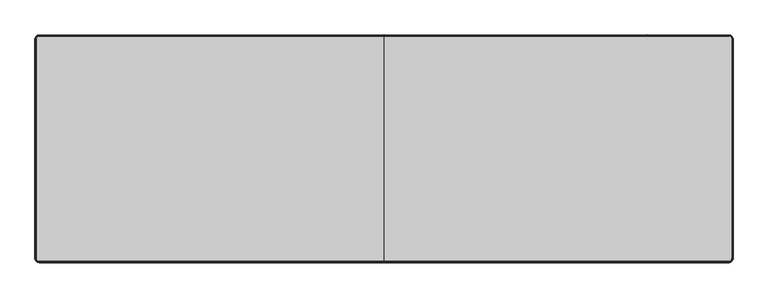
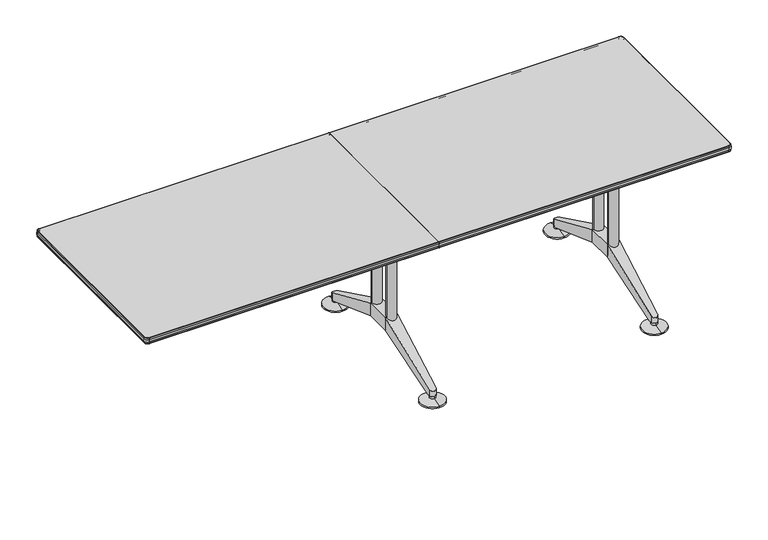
"""IFC4 building model written with IfcOpenShell, lengths in millimetres: furniture geometry, Furniture_Wilkhahn_620-23_Logon Table-Rectangle : Logon 620/23_2450L x 800W x 730H."""

from ifc_helpers import new_model, si_unit, point, frame, frame_2d, origin, place, context, project, spatial, polyline, circle_curve, ellipse_curve, trimmed, segment, composite_curve, outline, extrude, source, transform, mapped, element, save
from ifc_brep_helpers import plane_surface, cylinder_surface, revolved_surface, advanced_brep


def furniture_a2308944(model_context):
    return source(origin(), model_context, "Body", "SolidModel", [
        advanced_brep(
        [(0.0, 376.4755164, 0.0), (0.0, 326.4755164, 0.0), (0.0, 426.4755164, 0.0), (0.0, 326.4755164, 6.0), (0.0, 426.4755164, 6.0), (0.0, 363.9998784, 17.0), (0.0, 388.9511544, 17.0), (0.0, 363.9998784, 27.0), (0.0, 388.9511544, 27.0), (0.0, 376.4755164, 27.0)],
        [
            (0, 1),
            (1, 2, circle_curve(frame((0.0, 376.4755164, 0.0), z_axis=(0.0, 0.0, -1.0), x_axis=(0.0, 1.0000000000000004, 0.0)), 50.0)),
            (2, 0),
            (2, 1, circle_curve(frame((0.0, 376.4755164, 0.0), z_axis=(0.0, 0.0, -1.0), x_axis=(0.0, 1.0000000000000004, 0.0)), 50.0)),
            (1, 3),
            (3, 4, circle_curve(frame((0.0, 376.4755164, 6.0), z_axis=(0.0, 0.0, -1.0), x_axis=(0.0, 1.0000000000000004, 0.0)), 50.0)),
            (4, 2),
            (4, 3, circle_curve(frame((0.0, 376.4755164, 6.0), z_axis=(0.0, 0.0, -1.0), x_axis=(0.0, 1.0000000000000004, 0.0)), 50.0)),
            (3, 5),
            (5, 6, circle_curve(frame((0.0, 376.4755164, 17.0), z_axis=(0.0, 0.0, -1.0), x_axis=(0.0, 1.0000000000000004, 0.0)), 12.475638)),
            (6, 4),
            (6, 5, circle_curve(frame((0.0, 376.4755164, 17.0), z_axis=(0.0, 0.0, -1.0), x_axis=(0.0, 1.0000000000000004, 0.0)), 12.475638)),
            (5, 7),
            (7, 8, circle_curve(frame((0.0, 376.4755164, 27.0), z_axis=(0.0, 0.0, -1.0), x_axis=(0.0, 1.0000000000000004, 0.0)), 12.475638)),
            (8, 6),
            (8, 7, circle_curve(frame((0.0, 376.4755164, 27.0), z_axis=(0.0, 0.0, -1.0), x_axis=(0.0, 1.0000000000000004, 0.0)), 12.475638)),
            (7, 9),
            (9, 8),
        ],
        [
            plane_surface(frame((0.0, 376.4755164, 0.0), z_axis=(0.0, 0.0, -1.0), x_axis=(0.0, 1.0, 0.0))),
            cylinder_surface(frame((0.0, 376.4755164, 27.0), z_axis=(0.0, 0.0, -1.0), x_axis=(0.0, 1.0000000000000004, 0.0)), 50.0),
            revolved_surface(polyline([(0.0, 388.9511544, 17.0), (0.0, 426.4755164, 6.0)]), (0.0, 376.4755164, 27.0), (0.0, 0.0, -1.0)),
            cylinder_surface(frame((0.0, 376.4755164, 27.0), z_axis=(0.0, 0.0, -1.0), x_axis=(0.0, 1.0000000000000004, 0.0)), 12.475638),
            plane_surface(frame((0.0, 376.4755164, 27.0), z_axis=(0.0, 0.0, 1.0), x_axis=(0.0, 1.0, 0.0))),
        ],
        [
            (0, [[1, 2, 3]]),
            (0, [[-3, 4, -1]]),
            (1, [[5, 6, 7, -2]]),
            (1, [[-7, 8, -5, -4]]),
            (2, [[9, 10, 11, -6]]),
            (2, [[-11, 12, -9, -8]]),
            (3, [[13, 14, 15, -10]]),
            (3, [[-15, 16, -13, -12]]),
            (4, [[17, 18, -14]]),
            (4, [[-18, -17, -16]]),
        ],
    ),
        advanced_brep(
        [(0.0, -274.5732076, 0.0), (0.0, -324.5732076, 0.0), (0.0, -374.5732076, 0.0), (0.0, -274.5732076, 6.0), (0.0, -374.5732076, 6.0), (0.0, -312.0975696, 17.0), (0.0, -337.0488456, 17.0), (0.0, -312.0975696, 27.0), (0.0, -337.0488456, 27.0), (0.0, -324.5732076, 27.0)],
        [
            (0, 1),
            (1, 2),
            (2, 0, circle_curve(frame((0.0, -324.5732076, 0.0), z_axis=(0.0, 0.0, -1.0), x_axis=(0.0, -1.0000000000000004, 0.0)), 50.0)),
            (0, 2, circle_curve(frame((0.0, -324.5732076, 0.0), z_axis=(0.0, 0.0, -1.0), x_axis=(0.0, -1.0000000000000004, 0.0)), 50.0)),
            (3, 0),
            (2, 4),
            (4, 3, circle_curve(frame((0.0, -324.5732076, 6.0), z_axis=(0.0, 0.0, -1.0), x_axis=(0.0, -1.0000000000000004, 0.0)), 50.0)),
            (3, 4, circle_curve(frame((0.0, -324.5732076, 6.0), z_axis=(0.0, 0.0, -1.0), x_axis=(0.0, -1.0000000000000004, 0.0)), 50.0)),
            (5, 3),
            (4, 6),
            (6, 5, circle_curve(frame((0.0, -324.5732076, 17.0), z_axis=(0.0, 0.0, -1.0), x_axis=(0.0, -1.0000000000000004, 0.0)), 12.475638)),
            (5, 6, circle_curve(frame((0.0, -324.5732076, 17.0), z_axis=(0.0, 0.0, -1.0), x_axis=(0.0, -1.0000000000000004, 0.0)), 12.475638)),
            (7, 5),
            (6, 8),
            (8, 7, circle_curve(frame((0.0, -324.5732076, 27.0), z_axis=(0.0, 0.0, -1.0), x_axis=(0.0, -1.0000000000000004, 0.0)), 12.475638)),
            (7, 8, circle_curve(frame((0.0, -324.5732076, 27.0), z_axis=(0.0, 0.0, -1.0), x_axis=(0.0, -1.0000000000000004, 0.0)), 12.475638)),
            (9, 7),
            (8, 9),
        ],
        [
            plane_surface(frame((0.0, -324.5732076, 0.0), z_axis=(0.0, 0.0, -1.0), x_axis=(0.0, -1.0, 0.0))),
            cylinder_surface(frame((0.0, -324.5732076, 27.0), z_axis=(0.0, 0.0, 1.0), x_axis=(0.0, -1.0000000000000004, 0.0)), 50.0),
            revolved_surface(polyline([(0.0, -374.5732076, 6.0), (0.0, -337.0488456, 17.0)]), (0.0, -324.5732076, 27.0), (0.0, 0.0, 1.0)),
            cylinder_surface(frame((0.0, -324.5732076, 27.0), z_axis=(0.0, 0.0, 1.0), x_axis=(0.0, -1.0000000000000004, 0.0)), 12.475638),
            plane_surface(frame((0.0, -324.5732076, 27.0), z_axis=(0.0, 0.0, 1.0), x_axis=(0.0, -1.0, 0.0))),
        ],
        [
            (0, [[1, 2, 3]]),
            (0, [[-2, -1, 4]]),
            (1, [[5, -3, 6, 7]]),
            (1, [[-6, -4, -5, 8]]),
            (2, [[9, -7, 10, 11]]),
            (2, [[-10, -8, -9, 12]]),
            (3, [[13, -11, 14, 15]]),
            (3, [[-14, -12, -13, 16]]),
            (4, [[17, -15, 18]]),
            (4, [[-18, -16, -17]]),
        ],
    ),
        extrude(outline(composite_curve([segment(polyline([(25.0, 78.9511544), (25.0, -27.0488456), (51.7160071, -190.1086133)]), True, "CONTINUOUS"), segment(trimmed(circle_curve(frame_2d((39.8739001, -192.0488456)), 12.0), [point((51.7160071, -190.1086133))], [point((39.8739001, -204.0488456))], False, "CARTESIAN"), True, "CONTINUOUS"), segment(polyline([(39.8739001, -204.0488456), (-39.8739001, -204.0488456)]), True, "CONTINUOUS"), segment(trimmed(circle_curve(frame_2d((-39.8739001, -192.0488456)), 12.0), [point((-39.8739001, -204.0488456))], [point((-51.7160071, -190.1086133))], False, "CARTESIAN"), True, "CONTINUOUS"), segment(polyline([(-51.7160071, -190.1086133), (-25.0, -27.0488456), (-25.0, 78.9511544), (-51.7160071, 242.0109222)]), True, "CONTINUOUS"), segment(trimmed(circle_curve(frame_2d((-39.8739001, 243.9511544)), 12.0), [point((-51.7160071, 242.0109222))], [point((-39.8739001, 255.9511544))], False, "CARTESIAN"), True, "CONTINUOUS"), segment(polyline([(-39.8739001, 255.9511544), (39.8739001, 255.9511544)]), True, "CONTINUOUS"), segment(trimmed(circle_curve(frame_2d((39.8739001, 243.9511544)), 12.0), [point((39.8739001, 255.9511544))], [point((51.7160071, 242.0109222))], False, "CARTESIAN"), True, "CONTINUOUS"), segment(polyline([(51.7160071, 242.0109222), (25.0, 78.9511544)]), True, "CONTINUOUS")], self_intersect=False)), frame((0.0, 0.0, 675.0), z_axis=(0.0, 0.0, 1.0), x_axis=(1.0, 0.0, 0.0)), (0.0, 0.0, 1.0), 29.0),
        advanced_brep(
        [(-25.0, -27.0488456, 140.0), (-25.0, -27.0488456, 195.0), (-25.0, 78.9511544, 195.0), (-25.0, 78.9511544, 140.0), (25.0, -27.0488456, 195.0), (25.0, -27.0488456, 140.0), (25.0, 78.9511544, 140.0), (25.0, 78.9511544, 195.0), (13.4930419, -312.0975696, 27.0), (12.9894205, -324.5732076, 27.0), (0.0, -337.0488456, 27.0), (-12.9894205, -324.5732076, 27.0), (-13.4930419, -312.0975696, 27.0), (-12.9894205, -324.5732076, 56.4159205), (0.0, -337.0488456, 50.6048844), (12.9894205, -324.5732076, 56.4159205), (12.9894205, 376.4755164, 56.4159205), (13.4930419, 363.9998784, 27.0), (12.9894205, 376.4755164, 27.0), (-12.9894205, 376.4755164, 27.0), (-13.4930419, 363.9998784, 27.0), (-12.9894205, 376.4755164, 56.4159205), (0.0, 388.9511544, 50.6048844), (0.0, 388.9511544, 27.0)],
        [
            (0, 1),
            (1, 2),
            (2, 3),
            (3, 0),
            (4, 5),
            (5, 6),
            (6, 7),
            (7, 4),
            (8, 9),
            (9, 10, circle_curve(frame((0.0, -324.0488456, 27.0), z_axis=(0.0, 0.0, -1.0), x_axis=(1.0000000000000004, 0.0, 0.0)), 13.0)),
            (10, 11, circle_curve(frame((0.0, -324.0488456, 27.0), z_axis=(0.0, 0.0, -1.0), x_axis=(1.0000000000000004, 0.0, 0.0)), 13.0)),
            (11, 12),
            (12, 8),
            (1, 13),
            (13, 14, ellipse_curve(frame((0.0, -324.0488456, 56.6601634), z_axis=(0.0, -0.42223330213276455, 0.9064871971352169), x_axis=(0.0, -0.9064871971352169, -0.42223330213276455)), 14.341074, 13.0)),
            (14, 15, ellipse_curve(frame((0.0, -324.0488456, 56.6601634), z_axis=(0.0, -0.42223330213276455, 0.9064871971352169), x_axis=(0.0, -0.9064871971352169, -0.42223330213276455)), 14.341074, 13.0)),
            (15, 4),
            (4, 1),
            (5, 8),
            (12, 0),
            (0, 5),
            (16, 7),
            (6, 17),
            (17, 18),
            (18, 16),
            (19, 20),
            (20, 3),
            (2, 21),
            (21, 19),
            (7, 2),
            (3, 6),
            (21, 22, ellipse_curve(frame((0.0, 375.9511544, 56.6601634), z_axis=(0.0, -0.42223330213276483, -0.906487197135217), x_axis=(0.0, 0.906487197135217, -0.42223330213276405)), 14.341074, 13.0)),
            (22, 16, ellipse_curve(frame((0.0, 375.9511544, 56.6601634), z_axis=(0.0, -0.42223330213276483, -0.906487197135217), x_axis=(0.0, 0.906487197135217, -0.42223330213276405)), 14.341074, 13.0)),
            (18, 23, circle_curve(frame((0.0, 375.9511544, 27.0), z_axis=(0.0, 0.0, 1.0), x_axis=(1.0000000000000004, 0.0, 0.0)), 13.0)),
            (23, 19, circle_curve(frame((0.0, 375.9511544, 27.0), z_axis=(0.0, 0.0, 1.0), x_axis=(1.0000000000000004, 0.0, 0.0)), 13.0)),
            (11, 13),
            (9, 15),
            (17, 20),
        ],
        [
            plane_surface(frame((-25.0, -320.3023057, 27.0), z_axis=(-1.0, 0.0, 0.0), x_axis=(0.0, 1.0, 0.0))),
            plane_surface(frame((25.0, -320.3023057, 27.0), z_axis=(1.0, 0.0, 0.0), x_axis=(0.0, -1.0, 0.0))),
            plane_surface(frame((25.0, -312.0975696, 27.0), z_axis=(0.0, 0.0, -1.0), x_axis=(-1.0, 0.0, 0.0))),
            plane_surface(frame((25.0, -337.0488456, 50.6048844), z_axis=(0.0, -0.42223330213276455, 0.9064871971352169), x_axis=(-1.0, 0.0, 0.0))),
            plane_surface(frame((25.0, -27.0488456, 140.0), z_axis=(0.0, 0.36852267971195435, -0.9296187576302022), x_axis=(-1.0, 0.0, 0.0))),
            plane_surface(frame((25.0, 78.9511544, 195.0), z_axis=(0.9991861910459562, 0.04033553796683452, 0.0), x_axis=(0.0, 0.0, -1.0))),
            plane_surface(frame((-12.9894205, 376.4755164, 195.0), z_axis=(-0.9991861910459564, 0.0403355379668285, 0.0), x_axis=(0.0, 0.0, -1.0))),
            plane_surface(frame((25.0, -27.0488456, 195.0), z_axis=(0.0, 0.0, 1.0), x_axis=(-1.0, 0.0, 0.0))),
            plane_surface(frame((25.0, 78.9511544, 140.0), z_axis=(0.0, 0.0, -1.0), x_axis=(-1.0, 0.0, 0.0))),
            cylinder_surface(frame((0.0, 375.9511544, 0.0), z_axis=(0.0, 0.0, -1.0), x_axis=(1.0000000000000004, 0.0, 0.0)), 13.0),
            plane_surface(frame((-25.0, -27.0488456, 195.0), z_axis=(-0.9991861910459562, -0.040335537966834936, 0.0), x_axis=(0.0, 0.0, -1.0))),
            cylinder_surface(frame((0.0, -324.0488456, -14.190167), z_axis=(0.0, 0.0, -1.0), x_axis=(1.0000000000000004, 0.0, 0.0)), 13.0),
            plane_surface(frame((12.9894205, -324.5732076, 195.0), z_axis=(0.9991861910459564, -0.04033553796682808, 0.0), x_axis=(0.0, 0.0, -1.0))),
            plane_surface(frame((25.0, 78.9511544, 195.0), z_axis=(0.0, 0.4222333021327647, 0.9064871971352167), x_axis=(-1.0, 0.0, 0.0))),
            plane_surface(frame((25.0, 388.9511544, 27.0), z_axis=(0.0, 0.0, -1.0), x_axis=(-1.0, 0.0, 0.0))),
            plane_surface(frame((25.0, 363.9998784, 27.0), z_axis=(0.0, -0.36852267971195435, -0.929618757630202), x_axis=(-1.0, 0.0, 0.0))),
        ],
        [
            (0, [[1, 2, 3, 4]]),
            (1, [[5, 6, 7, 8]]),
            (2, [[9, 10, 11, 12, 13]]),
            (3, [[14, 15, 16, 17, 18]]),
            (4, [[19, -13, 20, 21]]),
            (5, [[22, -7, 23, 24, 25]]),
            (6, [[26, 27, -3, 28, 29]]),
            (7, [[-18, -8, 30, -2]]),
            (8, [[31, -6, -21, -4]]),
            (9, [[32, 33, -25, 34, 35, -29]]),
            (10, [[-14, -1, -20, -12, 36]]),
            (11, [[-11, -10, 37, -16, -15, -36]]),
            (12, [[-9, -19, -5, -17, -37]]),
            (13, [[-22, -33, -32, -28, -30]]),
            (14, [[-26, -35, -34, -24, 38]]),
            (15, [[-27, -38, -23, -31]]),
        ],
    ),
        extrude(outline(composite_curve([segment(trimmed(circle_curve(frame_2d((0.0, 78.9511544)), 20.0), [point((-20.0, 78.9511544))], [point((20.0, 78.9511544))], False, "CARTESIAN"), True, "CONTINUOUS"), segment(trimmed(circle_curve(frame_2d((0.0, 78.9511544)), 20.0), [point((20.0, 78.9511544))], [point((-20.0, 78.9511544))], False, "CARTESIAN"), True, "CONTINUOUS")], self_intersect=False)), frame((0.0, 0.0, 140.0), z_axis=(0.0, 0.0, 1.0), x_axis=(1.0, 0.0, 0.0)), (0.0, 0.0, 1.0), 535.0),
        extrude(outline(composite_curve([segment(trimmed(circle_curve(frame_2d((0.0, -27.0488456)), 20.0), [point((-20.0, -27.0488456))], [point((20.0, -27.0488456))], False, "CARTESIAN"), True, "CONTINUOUS"), segment(trimmed(circle_curve(frame_2d((0.0, -27.0488456)), 20.0), [point((20.0, -27.0488456))], [point((-20.0, -27.0488456))], False, "CARTESIAN"), True, "CONTINUOUS")], self_intersect=False)), frame((0.0, 0.0, 140.0), z_axis=(0.0, 0.0, 1.0), x_axis=(1.0, 0.0, 0.0)), (0.0, 0.0, 1.0), 535.0),
        advanced_brep(
        [(0.0, 421.9511544, 730.0), (0.0, 423.4511544, 728.5), (0.0, 423.4511544, 721.3301166), (0.0, 423.4511544, 712.6698626), (0.0, 423.4511544, 705.4999792), (0.0, 421.9511544, 703.9999792), (0.0, -370.0488456, 703.9999792), (0.0, -371.5488456, 705.4999792), (0.0, -371.5488456, 712.6698626), (0.0, -371.5488456, 721.3301166), (0.0, -371.5488456, 728.5), (0.0, -370.0488456, 730.0), (1210.0, -370.0488456, 703.9999792), (1221.0, -359.0488456, 703.9999792), (1222.5, -359.0488456, 705.4999792), (1210.0, -371.5488456, 705.4999792), (1222.5, -359.0488456, 712.6698626), (1210.0, -371.5488456, 712.6698626), (1222.5, -359.0488456, 721.3301166), (1210.0, -371.5488456, 721.3301166), (1222.5, -359.0488456, 728.5), (1210.0, -371.5488456, 728.5), (1221.0, -359.0488456, 730.0), (1210.0, -370.0488456, 730.0), (1210.0, 421.9511544, 703.9999792), (1221.0, 410.9511544, 703.9999792), (1210.0, 423.4511544, 705.4999792), (1210.0, 423.4511544, 712.6698626), (1210.0, 423.4511544, 721.3301166), (1210.0, 423.4511544, 728.5), (1210.0, 421.9511544, 730.0), (1221.0, 410.9511544, 730.0), (1222.5, 410.9511544, 705.4999792), (1222.5, 410.9511544, 712.6698626), (1222.5, 410.9511544, 721.3301166), (1222.5, 410.9511544, 728.5)],
        [
            (0, 1, circle_curve(frame((0.0, 421.9511544, 728.5), z_axis=(-1.0, 0.0, 0.0), x_axis=(0.0, 1.0, 0.0)), 1.5)),
            (1, 2),
            (2, 3, circle_curve(frame((0.0, 420.9511544, 716.9999896), z_axis=(-1.0, 0.0, 0.0), x_axis=(0.0, 1.0, 0.0)), 5.0)),
            (3, 4),
            (4, 5, circle_curve(frame((0.0, 421.9511544, 705.4999792), z_axis=(-1.0, 0.0, 0.0), x_axis=(0.0, 1.0, 0.0)), 1.5)),
            (5, 6),
            (6, 7, circle_curve(frame((0.0, -370.0488456, 705.4999792), z_axis=(-1.0, 0.0, 0.0), x_axis=(0.0, -1.0, 0.0)), 1.5)),
            (7, 8),
            (8, 9, circle_curve(frame((0.0, -369.0488456, 716.9999896), z_axis=(-1.0, 0.0, 0.0), x_axis=(0.0, -1.0, 0.0)), 5.0)),
            (9, 10),
            (10, 11, circle_curve(frame((0.0, -370.0488456, 728.5), z_axis=(-1.0, 0.0, 0.0), x_axis=(0.0, -1.0, 0.0)), 1.5)),
            (11, 0),
            (12, 13, circle_curve(frame((1210.0, -359.0488456, 703.9999792), z_axis=(0.0, 0.0, 1.0), x_axis=(1.0, 0.0, 0.0)), 11.0)),
            (13, 14, circle_curve(frame((1221.0, -359.0488456, 705.4999792), z_axis=(0.0, -1.0, 0.0), x_axis=(1.0, 0.0, 0.0)), 1.5)),
            (14, 15, circle_curve(frame((1210.0, -359.0488456, 705.4999792), z_axis=(0.0, 0.0, -1.0), x_axis=(1.0, 0.0, 0.0)), 12.5)),
            (15, 12, circle_curve(frame((1210.0, -370.0488456, 705.4999792), z_axis=(1.0, 0.0, 0.0), x_axis=(0.0, -1.0, 0.0)), 1.5)),
            (14, 16),
            (16, 17, circle_curve(frame((1210.0, -359.0488456, 712.6698626), z_axis=(0.0, 0.0, -1.0), x_axis=(1.0, 0.0, 0.0)), 12.5)),
            (17, 15),
            (16, 18, circle_curve(frame((1220.0, -359.0488456, 716.9999896), z_axis=(0.0, -1.0, 0.0), x_axis=(1.0, 0.0, 0.0)), 5.0)),
            (18, 19, circle_curve(frame((1210.0, -359.0488456, 721.3301166), z_axis=(0.0, 0.0, -1.0), x_axis=(1.0, 0.0, 0.0)), 12.5)),
            (19, 17, circle_curve(frame((1210.0, -369.0488456, 716.9999896), z_axis=(1.0, 0.0, 0.0), x_axis=(0.0, -1.0, 0.0)), 5.0)),
            (18, 20),
            (20, 21, circle_curve(frame((1210.0, -359.0488456, 728.5), z_axis=(0.0, 0.0, -1.0), x_axis=(1.0, 0.0, 0.0)), 12.5)),
            (21, 19),
            (20, 22, circle_curve(frame((1221.0, -359.0488456, 728.5), z_axis=(0.0, -1.0, 0.0), x_axis=(1.0, 0.0, 0.0)), 1.5)),
            (22, 23, circle_curve(frame((1210.0, -359.0488456, 730.0), z_axis=(0.0, 0.0, -1.0), x_axis=(1.0, 0.0, 0.0)), 11.0)),
            (23, 21, circle_curve(frame((1210.0, -370.0488456, 728.5), z_axis=(1.0, 0.0, 0.0), x_axis=(0.0, -1.0, 0.0)), 1.5)),
            (6, 12),
            (15, 7),
            (17, 8),
            (19, 9),
            (21, 10),
            (23, 11),
            (5, 24),
            (24, 25, circle_curve(frame((1210.0, 410.9511544, 703.9999792), z_axis=(0.0, 0.0, -1.0), x_axis=(0.0, 1.0, 0.0)), 11.0)),
            (25, 13),
            (4, 26),
            (26, 24, circle_curve(frame((1210.0, 421.9511544, 705.4999792), z_axis=(-1.0, 0.0, 0.0), x_axis=(0.0, 1.0, 0.0)), 1.5)),
            (3, 27),
            (27, 26),
            (2, 28),
            (28, 27, circle_curve(frame((1210.0, 420.9511544, 716.9999896), z_axis=(-1.0, 0.0, 0.0), x_axis=(0.0, 1.0, 0.0)), 5.0)),
            (1, 29),
            (29, 28),
            (0, 30),
            (30, 29, circle_curve(frame((1210.0, 421.9511544, 728.5), z_axis=(-1.0, 0.0, 0.0), x_axis=(0.0, 1.0, 0.0)), 1.5)),
            (22, 31),
            (31, 30, circle_curve(frame((1210.0, 410.9511544, 730.0), z_axis=(0.0, 0.0, 1.0), x_axis=(0.0, 1.0, 0.0)), 11.0)),
            (26, 32, circle_curve(frame((1210.0, 410.9511544, 705.4999792), z_axis=(0.0, 0.0, -1.0), x_axis=(0.0, 1.0, 0.0)), 12.5)),
            (32, 25, circle_curve(frame((1221.0, 410.9511544, 705.4999792), z_axis=(0.0, 1.0, 0.0), x_axis=(1.0, 0.0, 0.0)), 1.5)),
            (27, 33, circle_curve(frame((1210.0, 410.9511544, 712.6698626), z_axis=(0.0, 0.0, -1.0), x_axis=(0.0, 1.0, 0.0)), 12.5)),
            (33, 32),
            (28, 34, circle_curve(frame((1210.0, 410.9511544, 721.3301166), z_axis=(0.0, 0.0, -1.0), x_axis=(0.0, 1.0, 0.0)), 12.5)),
            (34, 33, circle_curve(frame((1220.0, 410.9511544, 716.9999896), z_axis=(0.0, 1.0, 0.0), x_axis=(1.0, 0.0, 0.0)), 5.0)),
            (29, 35, circle_curve(frame((1210.0, 410.9511544, 728.5), z_axis=(0.0, 0.0, -1.0), x_axis=(0.0, 1.0, 0.0)), 12.5)),
            (35, 34),
            (31, 35, circle_curve(frame((1221.0, 410.9511544, 728.5), z_axis=(0.0, 1.0, 0.0), x_axis=(1.0, 0.0, 0.0)), 1.5)),
            (32, 14),
            (33, 16),
            (34, 18),
            (35, 20),
        ],
        [
            plane_surface(frame((0.0, 425.9511544, 730.0), z_axis=(-1.0, 0.0, 0.0), x_axis=(0.0, 0.0, 1.0))),
            revolved_surface(trimmed(ellipse_curve(frame((1221.0, -359.0488456, 705.4999792), z_axis=(0.0, 1.0, 0.0), x_axis=(1.0, 0.0, 0.0)), 1.5, 1.5), [point((1222.5, -359.0488456, 705.4999792))], [point((1221.0, -359.0488456, 703.9999792))], True, "CARTESIAN"), (1210.0, -359.0488456, 730.0), (0.0, 0.0, -1.0)),
            cylinder_surface(frame((1210.0, -359.0488456, 730.0), z_axis=(0.0, 0.0, -1.0), x_axis=(1.0, 0.0, 0.0)), 12.5),
            revolved_surface(trimmed(ellipse_curve(frame((1220.0, -359.0488456, 716.9999896), z_axis=(0.0, 1.0, 0.0), x_axis=(1.0, 0.0, 0.0)), 5.0, 5.0), [point((1222.5, -359.0488456, 721.3301166))], [point((1222.5, -359.0488456, 712.6698626))], True, "CARTESIAN"), (1210.0, -359.0488456, 730.0), (0.0, 0.0, -1.0)),
            revolved_surface(trimmed(ellipse_curve(frame((1221.0, -359.0488456, 728.5), z_axis=(0.0, 1.0, 0.0), x_axis=(1.0, 0.0, 0.0)), 1.5, 1.5), [point((1221.0, -359.0488456, 730.0))], [point((1222.5, -359.0488456, 728.5))], True, "CARTESIAN"), (1210.0, -359.0488456, 730.0), (0.0, 0.0, -1.0)),
            cylinder_surface(frame((1210.0, -370.0488456, 705.4999792), z_axis=(1.0, 0.0, 0.0), x_axis=(0.0, -1.0, 0.0)), 1.5),
            plane_surface(frame((1210.0, -371.5488456, 712.6698626), z_axis=(0.0, -1.0, 0.0), x_axis=(-1.0, 0.0, 0.0))),
            cylinder_surface(frame((1210.0, -369.0488456, 716.9999896), z_axis=(1.0, 0.0, 0.0), x_axis=(0.0, -1.0, 0.0)), 5.0),
            plane_surface(frame((1210.0, -371.5488456, 728.5), z_axis=(0.0, -1.0, 0.0), x_axis=(-1.0, 0.0, 0.0))),
            cylinder_surface(frame((1210.0, -370.0488456, 728.5), z_axis=(1.0, 0.0, 0.0), x_axis=(0.0, -1.0, 0.0)), 1.5),
            plane_surface(frame((0.0, 421.9511544, 703.9999792), z_axis=(0.0, 0.0, -1.0), x_axis=(1.0, 0.0, 0.0))),
            cylinder_surface(frame((0.0, 421.9511544, 705.4999792), z_axis=(-1.0, 0.0, 0.0), x_axis=(0.0, 1.0, 0.0)), 1.5),
            plane_surface(frame((0.0, 423.4511544, 712.6698626), z_axis=(0.0, 1.0, 0.0), x_axis=(1.0, 0.0, 0.0))),
            cylinder_surface(frame((0.0, 420.9511544, 716.9999896), z_axis=(-1.0, 0.0, 0.0), x_axis=(0.0, 1.0, 0.0)), 5.0),
            plane_surface(frame((0.0, 423.4511544, 728.5), z_axis=(0.0, 1.0, 0.0), x_axis=(1.0, 0.0, 0.0))),
            cylinder_surface(frame((0.0, 421.9511544, 728.5), z_axis=(-1.0, 0.0, 0.0), x_axis=(0.0, 1.0, 0.0)), 1.5),
            plane_surface(frame((0.0, 420.9511544, 730.0), z_axis=(0.0, 0.0, 1.0), x_axis=(1.0, 0.0, 0.0))),
            revolved_surface(trimmed(ellipse_curve(frame((1210.0, 421.9511544, 705.4999792), z_axis=(-1.0, 0.0, 0.0), x_axis=(0.0, 1.0, 0.0)), 1.5, 1.5), [point((1210.0, 423.4511544, 705.4999792))], [point((1210.0, 421.9511544, 703.9999792))], True, "CARTESIAN"), (1210.0, 410.9511544, 730.0), (0.0, 0.0, -1.0)),
            cylinder_surface(frame((1210.0, 410.9511544, 730.0), z_axis=(0.0, 0.0, -1.0), x_axis=(0.0, 1.0, 0.0)), 12.5),
            revolved_surface(trimmed(ellipse_curve(frame((1210.0, 420.9511544, 716.9999896), z_axis=(-1.0, 0.0, 0.0), x_axis=(0.0, 1.0, 0.0)), 5.0, 5.0), [point((1210.0, 423.4511544, 721.3301166))], [point((1210.0, 423.4511544, 712.6698626))], True, "CARTESIAN"), (1210.0, 410.9511544, 730.0), (0.0, 0.0, -1.0)),
            revolved_surface(trimmed(ellipse_curve(frame((1210.0, 421.9511544, 728.5), z_axis=(-1.0, 0.0, 0.0), x_axis=(0.0, 1.0, 0.0)), 1.5, 1.5), [point((1210.0, 421.9511544, 730.0))], [point((1210.0, 423.4511544, 728.5))], True, "CARTESIAN"), (1210.0, 410.9511544, 730.0), (0.0, 0.0, -1.0)),
            cylinder_surface(frame((1221.0, 410.9511544, 705.4999792), z_axis=(0.0, 1.0, 0.0), x_axis=(1.0, 0.0, 0.0)), 1.5),
            plane_surface(frame((1222.5, 410.9511544, 712.6698626), z_axis=(1.0, 0.0, 0.0), x_axis=(0.0, -1.0, 0.0))),
            cylinder_surface(frame((1220.0, 410.9511544, 716.9999896), z_axis=(0.0, 1.0, 0.0), x_axis=(1.0, 0.0, 0.0)), 5.0),
            plane_surface(frame((1222.5, 410.9511544, 728.5), z_axis=(1.0, 0.0, 0.0), x_axis=(0.0, -1.0, 0.0))),
            cylinder_surface(frame((1221.0, 410.9511544, 728.5), z_axis=(0.0, 1.0, 0.0), x_axis=(1.0, 0.0, 0.0)), 1.5),
        ],
        [
            (0, [[1, 2, 3, 4, 5, 6, 7, 8, 9, 10, 11, 12]]),
            (1, [[13, 14, 15, 16]]),
            (2, [[-15, 17, 18, 19]]),
            (3, [[-18, 20, 21, 22]]),
            (2, [[-21, 23, 24, 25]]),
            (4, [[-24, 26, 27, 28]]),
            (5, [[-7, 29, -16, 30]]),
            (6, [[-8, -30, -19, 31]]),
            (7, [[-9, -31, -22, 32]]),
            (8, [[-10, -32, -25, 33]]),
            (9, [[-11, -33, -28, 34]]),
            (10, [[-6, 35, 36, 37, -13, -29]]),
            (11, [[-5, 38, 39, -35]]),
            (12, [[-4, 40, 41, -38]]),
            (13, [[-3, 42, 43, -40]]),
            (14, [[-2, 44, 45, -42]]),
            (15, [[-1, 46, 47, -44]]),
            (16, [[-12, -34, -27, 48, 49, -46]]),
            (17, [[-36, -39, 50, 51]]),
            (18, [[-41, 52, 53, -50]]),
            (19, [[-43, 54, 55, -52]]),
            (18, [[-45, 56, 57, -54]]),
            (20, [[-47, -49, 58, -56]]),
            (21, [[-14, -37, -51, 59]]),
            (22, [[-17, -59, -53, 60]]),
            (23, [[-20, -60, -55, 61]]),
            (24, [[-23, -61, -57, 62]]),
            (25, [[-26, -62, -58, -48]]),
        ],
    ),
        advanced_brep(
        [(-1210.0, -371.5488456, 705.4999792), (-1222.5, -359.0488456, 705.4999792), (-1221.0, -359.0488456, 703.9999792), (-1210.0, -370.0488456, 703.9999792), (-1210.0, -371.5488456, 712.6698626), (-1222.5, -359.0488456, 712.6698626), (-1210.0, -371.5488456, 721.3301166), (-1222.5, -359.0488456, 721.3301166), (-1210.0, -371.5488456, 728.5), (-1222.5, -359.0488456, 728.5), (-1210.0, -370.0488456, 730.0), (-1221.0, -359.0488456, 730.0), (0.0, -370.0488456, 703.9999792), (0.0, -371.5488456, 705.4999792), (0.0, -371.5488456, 712.6698626), (0.0, -371.5488456, 721.3301166), (0.0, -371.5488456, 728.5), (0.0, -370.0488456, 730.0), (0.0, 423.4511544, 705.4999792), (0.0, 421.9511544, 703.9999792), (-1210.0, 421.9511544, 703.9999792), (-1210.0, 423.4511544, 705.4999792), (0.0, 423.4511544, 712.6698626), (-1210.0, 423.4511544, 712.6698626), (0.0, 423.4511544, 721.3301166), (-1210.0, 423.4511544, 721.3301166), (0.0, 423.4511544, 728.5), (-1210.0, 423.4511544, 728.5), (0.0, 421.9511544, 730.0), (-1210.0, 421.9511544, 730.0), (-1221.0, 410.9511544, 703.9999792), (-1222.5, 410.9511544, 705.4999792), (-1222.5, 410.9511544, 712.6698626), (-1222.5, 410.9511544, 721.3301166), (-1222.5, 410.9511544, 728.5), (-1221.0, 410.9511544, 730.0)],
        [
            (0, 1, circle_curve(frame((-1210.0, -359.0488456, 705.4999792), z_axis=(0.0, 0.0, -1.0), x_axis=(-1.0, 0.0, 0.0)), 12.5)),
            (1, 2, circle_curve(frame((-1221.0, -359.0488456, 705.4999792), z_axis=(0.0, -1.0, 0.0), x_axis=(1.0, 0.0, 0.0)), 1.5)),
            (2, 3, circle_curve(frame((-1210.0, -359.0488456, 703.9999792), z_axis=(0.0, 0.0, 1.0), x_axis=(-1.0, 0.0, 0.0)), 11.0)),
            (3, 0, circle_curve(frame((-1210.0, -370.0488456, 705.4999792), z_axis=(-1.0, 0.0, 0.0), x_axis=(0.0, 1.0, 0.0)), 1.5)),
            (0, 4),
            (4, 5, circle_curve(frame((-1210.0, -359.0488456, 712.6698626), z_axis=(0.0, 0.0, -1.0), x_axis=(-1.0, 0.0, 0.0)), 12.5)),
            (5, 1),
            (4, 6, circle_curve(frame((-1210.0, -369.0488456, 716.9999896), z_axis=(-1.0, 0.0, 0.0), x_axis=(0.0, 1.0, 0.0)), 5.0)),
            (6, 7, circle_curve(frame((-1210.0, -359.0488456, 721.3301166), z_axis=(0.0, 0.0, -1.0), x_axis=(-1.0, 0.0, 0.0)), 12.5)),
            (7, 5, circle_curve(frame((-1220.0, -359.0488456, 716.9999896), z_axis=(0.0, -1.0, 0.0), x_axis=(1.0, 0.0, 0.0)), 5.0)),
            (6, 8),
            (8, 9, circle_curve(frame((-1210.0, -359.0488456, 728.5), z_axis=(0.0, 0.0, -1.0), x_axis=(-1.0, 0.0, 0.0)), 12.5)),
            (9, 7),
            (8, 10, circle_curve(frame((-1210.0, -370.0488456, 728.5), z_axis=(-1.0, 0.0, 0.0), x_axis=(0.0, 1.0, 0.0)), 1.5)),
            (10, 11, circle_curve(frame((-1210.0, -359.0488456, 730.0), z_axis=(0.0, 0.0, -1.0), x_axis=(-1.0, 0.0, 0.0)), 11.0)),
            (11, 9, circle_curve(frame((-1221.0, -359.0488456, 728.5), z_axis=(0.0, -1.0, 0.0), x_axis=(1.0, 0.0, 0.0)), 1.5)),
            (12, 13, circle_curve(frame((0.0, -370.0488456, 705.4999792), z_axis=(-1.0, 0.0, 0.0), x_axis=(0.0, 1.0, 0.0)), 1.5)),
            (13, 0),
            (3, 12),
            (13, 14),
            (14, 4),
            (14, 15, circle_curve(frame((0.0, -369.0488456, 716.9999896), z_axis=(-1.0, 0.0, 0.0), x_axis=(0.0, 1.0, 0.0)), 5.0)),
            (15, 6),
            (15, 16),
            (16, 8),
            (16, 17, circle_curve(frame((0.0, -370.0488456, 728.5), z_axis=(-1.0, 0.0, 0.0), x_axis=(0.0, 1.0, 0.0)), 1.5)),
            (17, 10),
            (18, 19, circle_curve(frame((0.0, 421.9511544, 705.4999792), z_axis=(-1.0, 0.0, 0.0), x_axis=(0.0, -1.0, 0.0)), 1.5)),
            (19, 20),
            (20, 21, circle_curve(frame((-1210.0, 421.9511544, 705.4999792), z_axis=(1.0, 0.0, 0.0), x_axis=(0.0, -1.0, 0.0)), 1.5)),
            (21, 18),
            (22, 18),
            (21, 23),
            (23, 22),
            (24, 22, circle_curve(frame((0.0, 420.9511544, 716.9999896), z_axis=(-1.0, 0.0, 0.0), x_axis=(0.0, -1.0, 0.0)), 5.0)),
            (23, 25, circle_curve(frame((-1210.0, 420.9511544, 716.9999896), z_axis=(1.0, 0.0, 0.0), x_axis=(0.0, -1.0, 0.0)), 5.0)),
            (25, 24),
            (26, 24),
            (25, 27),
            (27, 26),
            (28, 26, circle_curve(frame((0.0, 421.9511544, 728.5), z_axis=(-1.0, 0.0, 0.0), x_axis=(0.0, -1.0, 0.0)), 1.5)),
            (27, 29, circle_curve(frame((-1210.0, 421.9511544, 728.5), z_axis=(1.0, 0.0, 0.0), x_axis=(0.0, -1.0, 0.0)), 1.5)),
            (29, 28),
            (20, 30, circle_curve(frame((-1210.0, 410.9511544, 703.9999792), z_axis=(0.0, 0.0, 1.0), x_axis=(0.0, 1.0, 0.0)), 11.0)),
            (30, 31, circle_curve(frame((-1221.0, 410.9511544, 705.4999792), z_axis=(0.0, 1.0, 0.0), x_axis=(1.0, 0.0, 0.0)), 1.5)),
            (31, 21, circle_curve(frame((-1210.0, 410.9511544, 705.4999792), z_axis=(0.0, 0.0, -1.0), x_axis=(0.0, 1.0, 0.0)), 12.5)),
            (31, 32),
            (32, 23, circle_curve(frame((-1210.0, 410.9511544, 712.6698626), z_axis=(0.0, 0.0, -1.0), x_axis=(0.0, 1.0, 0.0)), 12.5)),
            (32, 33, circle_curve(frame((-1220.0, 410.9511544, 716.9999896), z_axis=(0.0, 1.0, 0.0), x_axis=(1.0, 0.0, 0.0)), 5.0)),
            (33, 25, circle_curve(frame((-1210.0, 410.9511544, 721.3301166), z_axis=(0.0, 0.0, -1.0), x_axis=(0.0, 1.0, 0.0)), 12.5)),
            (33, 34),
            (34, 27, circle_curve(frame((-1210.0, 410.9511544, 728.5), z_axis=(0.0, 0.0, -1.0), x_axis=(0.0, 1.0, 0.0)), 12.5)),
            (34, 35, circle_curve(frame((-1221.0, 410.9511544, 728.5), z_axis=(0.0, 1.0, 0.0), x_axis=(1.0, 0.0, 0.0)), 1.5)),
            (35, 29, circle_curve(frame((-1210.0, 410.9511544, 730.0), z_axis=(0.0, 0.0, -1.0), x_axis=(0.0, 1.0, 0.0)), 11.0)),
            (1, 31),
            (30, 2),
            (5, 32),
            (7, 33),
            (9, 34),
            (11, 35),
            (28, 17),
            (12, 19),
        ],
        [
            revolved_surface(trimmed(ellipse_curve(frame((-1221.0, -359.0488456, 705.4999792), z_axis=(0.0, 1.0, 0.0), x_axis=(1.0, 0.0, 0.0)), 1.5, 1.5), [point((-1221.0, -359.0488456, 703.9999792))], [point((-1222.5, -359.0488456, 705.4999792))], True, "CARTESIAN"), (-1210.0, -359.0488456, 730.0), (0.0, 0.0, 1.0)),
            cylinder_surface(frame((-1210.0, -359.0488456, 730.0), z_axis=(0.0, 0.0, 1.0), x_axis=(-1.0, 0.0, 0.0)), 12.5),
            revolved_surface(trimmed(ellipse_curve(frame((-1220.0, -359.0488456, 716.9999896), z_axis=(0.0, 1.0, 0.0), x_axis=(1.0, 0.0, 0.0)), 5.0, 5.0), [point((-1222.5, -359.0488456, 712.6698626))], [point((-1222.5, -359.0488456, 721.3301166))], True, "CARTESIAN"), (-1210.0, -359.0488456, 730.0), (0.0, 0.0, 1.0)),
            revolved_surface(trimmed(ellipse_curve(frame((-1221.0, -359.0488456, 728.5), z_axis=(0.0, 1.0, 0.0), x_axis=(1.0, 0.0, 0.0)), 1.5, 1.5), [point((-1222.5, -359.0488456, 728.5))], [point((-1221.0, -359.0488456, 730.0))], True, "CARTESIAN"), (-1210.0, -359.0488456, 730.0), (0.0, 0.0, 1.0)),
            cylinder_surface(frame((-1210.0, -370.0488456, 705.4999792), z_axis=(-1.0, 0.0, 0.0), x_axis=(0.0, 1.0, 0.0)), 1.5),
            plane_surface(frame((-1210.0, -371.5488456, 705.4999792), z_axis=(0.0, -1.0, 0.0), x_axis=(1.0, 0.0, 0.0))),
            cylinder_surface(frame((-1210.0, -369.0488456, 716.9999896), z_axis=(-1.0, 0.0, 0.0), x_axis=(0.0, 1.0, 0.0)), 5.0),
            plane_surface(frame((-1210.0, -371.5488456, 721.3301166), z_axis=(0.0, -1.0, 0.0), x_axis=(1.0, 0.0, 0.0))),
            cylinder_surface(frame((-1210.0, -370.0488456, 728.5), z_axis=(-1.0, 0.0, 0.0), x_axis=(0.0, 1.0, 0.0)), 1.5),
            cylinder_surface(frame((0.0, 421.9511544, 705.4999792), z_axis=(1.0, 0.0, 0.0), x_axis=(0.0, -1.0, 0.0)), 1.5),
            plane_surface(frame((0.0, 423.4511544, 705.4999792), z_axis=(0.0, 1.0, 0.0), x_axis=(-1.0, 0.0, 0.0))),
            cylinder_surface(frame((0.0, 420.9511544, 716.9999896), z_axis=(1.0, 0.0, 0.0), x_axis=(0.0, -1.0, 0.0)), 5.0),
            plane_surface(frame((0.0, 423.4511544, 721.3301166), z_axis=(0.0, 1.0, 0.0), x_axis=(-1.0, 0.0, 0.0))),
            cylinder_surface(frame((0.0, 421.9511544, 728.5), z_axis=(1.0, 0.0, 0.0), x_axis=(0.0, -1.0, 0.0)), 1.5),
            revolved_surface(trimmed(ellipse_curve(frame((-1210.0, 421.9511544, 705.4999792), z_axis=(1.0, 0.0, 0.0), x_axis=(0.0, -1.0, 0.0)), 1.5, 1.5), [point((-1210.0, 421.9511544, 703.9999792))], [point((-1210.0, 423.4511544, 705.4999792))], True, "CARTESIAN"), (-1210.0, 410.9511544, 730.0), (0.0, 0.0, 1.0)),
            cylinder_surface(frame((-1210.0, 410.9511544, 730.0), z_axis=(0.0, 0.0, 1.0), x_axis=(0.0, 1.0, 0.0)), 12.5),
            revolved_surface(trimmed(ellipse_curve(frame((-1210.0, 420.9511544, 716.9999896), z_axis=(1.0, 0.0, 0.0), x_axis=(0.0, -1.0, 0.0)), 5.0, 5.0), [point((-1210.0, 423.4511544, 712.6698626))], [point((-1210.0, 423.4511544, 721.3301166))], True, "CARTESIAN"), (-1210.0, 410.9511544, 730.0), (0.0, 0.0, 1.0)),
            revolved_surface(trimmed(ellipse_curve(frame((-1210.0, 421.9511544, 728.5), z_axis=(1.0, 0.0, 0.0), x_axis=(0.0, -1.0, 0.0)), 1.5, 1.5), [point((-1210.0, 423.4511544, 728.5))], [point((-1210.0, 421.9511544, 730.0))], True, "CARTESIAN"), (-1210.0, 410.9511544, 730.0), (0.0, 0.0, 1.0)),
            cylinder_surface(frame((-1221.0, 410.9511544, 705.4999792), z_axis=(0.0, 1.0, 0.0), x_axis=(1.0, 0.0, 0.0)), 1.5),
            plane_surface(frame((-1222.5, 410.9511544, 705.4999792), z_axis=(-1.0, 0.0, 0.0), x_axis=(0.0, -1.0, 0.0))),
            cylinder_surface(frame((-1220.0, 410.9511544, 716.9999896), z_axis=(0.0, 1.0, 0.0), x_axis=(1.0, 0.0, 0.0)), 5.0),
            plane_surface(frame((-1222.5, 410.9511544, 721.3301166), z_axis=(-1.0, 0.0, 0.0), x_axis=(0.0, -1.0, 0.0))),
            cylinder_surface(frame((-1221.0, 410.9511544, 728.5), z_axis=(0.0, 1.0, 0.0), x_axis=(1.0, 0.0, 0.0)), 1.5),
            plane_surface(frame((0.0, 425.9511544, 730.0), z_axis=(1.0, 0.0, 0.0), x_axis=(0.0, 0.0, 1.0))),
            plane_surface(frame((0.0, 420.9511544, 703.9999792), z_axis=(0.0, 0.0, -1.0), x_axis=(-1.0, 0.0, 0.0))),
            plane_surface(frame((0.0, 421.9511544, 730.0), z_axis=(0.0, 0.0, 1.0), x_axis=(-1.0, 0.0, 0.0))),
        ],
        [
            (0, [[1, 2, 3, 4]]),
            (1, [[-1, 5, 6, 7]]),
            (2, [[-6, 8, 9, 10]]),
            (1, [[-9, 11, 12, 13]]),
            (3, [[-12, 14, 15, 16]]),
            (4, [[17, 18, -4, 19]]),
            (5, [[20, 21, -5, -18]]),
            (6, [[22, 23, -8, -21]]),
            (7, [[24, 25, -11, -23]]),
            (8, [[26, 27, -14, -25]]),
            (9, [[28, 29, 30, 31]]),
            (10, [[32, -31, 33, 34]]),
            (11, [[35, -34, 36, 37]]),
            (12, [[38, -37, 39, 40]]),
            (13, [[41, -40, 42, 43]]),
            (14, [[44, 45, 46, -30]]),
            (15, [[-33, -46, 47, 48]]),
            (16, [[-36, -48, 49, 50]]),
            (15, [[-39, -50, 51, 52]]),
            (17, [[-42, -52, 53, 54]]),
            (18, [[-2, 55, -45, 56]]),
            (19, [[-7, 57, -47, -55]]),
            (20, [[-10, 58, -49, -57]]),
            (21, [[-13, 59, -51, -58]]),
            (22, [[-16, 60, -53, -59]]),
            (23, [[-28, -32, -35, -38, -41, 61, -26, -24, -22, -20, -17, 62]]),
            (24, [[-62, -19, -3, -56, -44, -29]]),
            (25, [[-61, -43, -54, -60, -15, -27]]),
        ],
    ),
        advanced_brep(
        [(925.0, 376.4755164, 0.0), (925.0, 326.4755164, 0.0), (925.0, 426.4755164, 0.0), (925.0, 326.4755164, 6.0), (925.0, 426.4755164, 6.0), (925.0, 363.9998784, 17.0), (925.0, 388.9511544, 17.0), (925.0, 363.9998784, 27.0), (925.0, 388.9511544, 27.0), (925.0, 376.4755164, 27.0)],
        [
            (0, 1),
            (1, 2, circle_curve(frame((925.0, 376.4755164, 0.0), z_axis=(0.0, 0.0, -1.0), x_axis=(0.0, 1.0000000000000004, 0.0)), 50.0)),
            (2, 0),
            (2, 1, circle_curve(frame((925.0, 376.4755164, 0.0), z_axis=(0.0, 0.0, -1.0), x_axis=(0.0, 1.0000000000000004, 0.0)), 50.0)),
            (1, 3),
            (3, 4, circle_curve(frame((925.0, 376.4755164, 6.0), z_axis=(0.0, 0.0, -1.0), x_axis=(0.0, 1.0000000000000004, 0.0)), 50.0)),
            (4, 2),
            (4, 3, circle_curve(frame((925.0, 376.4755164, 6.0), z_axis=(0.0, 0.0, -1.0), x_axis=(0.0, 1.0000000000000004, 0.0)), 50.0)),
            (3, 5),
            (5, 6, circle_curve(frame((925.0, 376.4755164, 17.0), z_axis=(0.0, 0.0, -1.0), x_axis=(0.0, 1.0000000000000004, 0.0)), 12.475638)),
            (6, 4),
            (6, 5, circle_curve(frame((925.0, 376.4755164, 17.0), z_axis=(0.0, 0.0, -1.0), x_axis=(0.0, 1.0000000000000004, 0.0)), 12.475638)),
            (5, 7),
            (7, 8, circle_curve(frame((925.0, 376.4755164, 27.0), z_axis=(0.0, 0.0, -1.0), x_axis=(0.0, 1.0000000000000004, 0.0)), 12.475638)),
            (8, 6),
            (8, 7, circle_curve(frame((925.0, 376.4755164, 27.0), z_axis=(0.0, 0.0, -1.0), x_axis=(0.0, 1.0000000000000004, 0.0)), 12.475638)),
            (7, 9),
            (9, 8),
        ],
        [
            plane_surface(frame((925.0, 376.4755164, 0.0), z_axis=(0.0, 0.0, -1.0), x_axis=(0.0, 1.0, 0.0))),
            cylinder_surface(frame((925.0, 376.4755164, 27.0), z_axis=(0.0, 0.0, -1.0), x_axis=(0.0, 1.0000000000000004, 0.0)), 50.0),
            revolved_surface(polyline([(925.0, 388.9511544, 17.0), (925.0, 426.4755164, 6.0)]), (925.0, 376.4755164, 27.0), (0.0, 0.0, -1.0)),
            cylinder_surface(frame((925.0, 376.4755164, 27.0), z_axis=(0.0, 0.0, -1.0), x_axis=(0.0, 1.0000000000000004, 0.0)), 12.475638),
            plane_surface(frame((925.0, 376.4755164, 27.0), z_axis=(0.0, 0.0, 1.0), x_axis=(0.0, 1.0, 0.0))),
        ],
        [
            (0, [[1, 2, 3]]),
            (0, [[-3, 4, -1]]),
            (1, [[5, 6, 7, -2]]),
            (1, [[-7, 8, -5, -4]]),
            (2, [[9, 10, 11, -6]]),
            (2, [[-11, 12, -9, -8]]),
            (3, [[13, 14, 15, -10]]),
            (3, [[-15, 16, -13, -12]]),
            (4, [[17, 18, -14]]),
            (4, [[-18, -17, -16]]),
        ],
    ),
        advanced_brep(
        [(925.0, -274.5732076, 0.0), (925.0, -324.5732076, 0.0), (925.0, -374.5732076, 0.0), (925.0, -274.5732076, 6.0), (925.0, -374.5732076, 6.0), (925.0, -312.0975696, 17.0), (925.0, -337.0488456, 17.0), (925.0, -312.0975696, 27.0), (925.0, -337.0488456, 27.0), (925.0, -324.5732076, 27.0)],
        [
            (0, 1),
            (1, 2),
            (2, 0, circle_curve(frame((925.0, -324.5732076, 0.0), z_axis=(0.0, 0.0, -1.0), x_axis=(0.0, -1.0000000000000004, 0.0)), 50.0)),
            (0, 2, circle_curve(frame((925.0, -324.5732076, 0.0), z_axis=(0.0, 0.0, -1.0), x_axis=(0.0, -1.0000000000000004, 0.0)), 50.0)),
            (3, 0),
            (2, 4),
            (4, 3, circle_curve(frame((925.0, -324.5732076, 6.0), z_axis=(0.0, 0.0, -1.0), x_axis=(0.0, -1.0000000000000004, 0.0)), 50.0)),
            (3, 4, circle_curve(frame((925.0, -324.5732076, 6.0), z_axis=(0.0, 0.0, -1.0), x_axis=(0.0, -1.0000000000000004, 0.0)), 50.0)),
            (5, 3),
            (4, 6),
            (6, 5, circle_curve(frame((925.0, -324.5732076, 17.0), z_axis=(0.0, 0.0, -1.0), x_axis=(0.0, -1.0000000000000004, 0.0)), 12.475638)),
            (5, 6, circle_curve(frame((925.0, -324.5732076, 17.0), z_axis=(0.0, 0.0, -1.0), x_axis=(0.0, -1.0000000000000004, 0.0)), 12.475638)),
            (7, 5),
            (6, 8),
            (8, 7, circle_curve(frame((925.0, -324.5732076, 27.0), z_axis=(0.0, 0.0, -1.0), x_axis=(0.0, -1.0000000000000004, 0.0)), 12.475638)),
            (7, 8, circle_curve(frame((925.0, -324.5732076, 27.0), z_axis=(0.0, 0.0, -1.0), x_axis=(0.0, -1.0000000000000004, 0.0)), 12.475638)),
            (9, 7),
            (8, 9),
        ],
        [
            plane_surface(frame((925.0, -324.5732076, 0.0), z_axis=(0.0, 0.0, -1.0), x_axis=(0.0, -1.0, 0.0))),
            cylinder_surface(frame((925.0, -324.5732076, 27.0), z_axis=(0.0, 0.0, 1.0), x_axis=(0.0, -1.0000000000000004, 0.0)), 50.0),
            revolved_surface(polyline([(925.0, -374.5732076, 6.0), (925.0, -337.0488456, 17.0)]), (925.0, -324.5732076, 27.0), (0.0, 0.0, 1.0)),
            cylinder_surface(frame((925.0, -324.5732076, 27.0), z_axis=(0.0, 0.0, 1.0), x_axis=(0.0, -1.0000000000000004, 0.0)), 12.475638),
            plane_surface(frame((925.0, -324.5732076, 27.0), z_axis=(0.0, 0.0, 1.0), x_axis=(0.0, -1.0, 0.0))),
        ],
        [
            (0, [[1, 2, 3]]),
            (0, [[-2, -1, 4]]),
            (1, [[5, -3, 6, 7]]),
            (1, [[-6, -4, -5, 8]]),
            (2, [[9, -7, 10, 11]]),
            (2, [[-10, -8, -9, 12]]),
            (3, [[13, -11, 14, 15]]),
            (3, [[-14, -12, -13, 16]]),
            (4, [[17, -15, 18]]),
            (4, [[-18, -16, -17]]),
        ],
    ),
        extrude(outline(composite_curve([segment(polyline([(950.0, 78.9511544), (950.0, -27.0488456), (976.7160071, -190.1086133)]), True, "CONTINUOUS"), segment(trimmed(circle_curve(frame_2d((964.8739001, -192.0488456)), 12.0), [point((976.7160071, -190.1086133))], [point((964.8739001, -204.0488456))], False, "CARTESIAN"), True, "CONTINUOUS"), segment(polyline([(964.8739001, -204.0488456), (885.1260999, -204.0488456)]), True, "CONTINUOUS"), segment(trimmed(circle_curve(frame_2d((885.1260999, -192.0488456)), 12.0), [point((885.1260999, -204.0488456))], [point((873.2839929, -190.1086133))], False, "CARTESIAN"), True, "CONTINUOUS"), segment(polyline([(873.2839929, -190.1086133), (900.0, -27.0488456), (900.0, 78.9511544), (873.2839929, 242.0109222)]), True, "CONTINUOUS"), segment(trimmed(circle_curve(frame_2d((885.1260999, 243.9511544)), 12.0), [point((873.2839929, 242.0109222))], [point((885.1260999, 255.9511544))], False, "CARTESIAN"), True, "CONTINUOUS"), segment(polyline([(885.1260999, 255.9511544), (964.8739001, 255.9511544)]), True, "CONTINUOUS"), segment(trimmed(circle_curve(frame_2d((964.8739001, 243.9511544)), 12.0), [point((964.8739001, 255.9511544))], [point((976.7160071, 242.0109222))], False, "CARTESIAN"), True, "CONTINUOUS"), segment(polyline([(976.7160071, 242.0109222), (950.0, 78.9511544)]), True, "CONTINUOUS")], self_intersect=False)), frame((0.0, 0.0, 675.0), z_axis=(0.0, 0.0, 1.0), x_axis=(1.0, 0.0, 0.0)), (0.0, 0.0, 1.0), 29.0),
        advanced_brep(
        [(900.0, -27.0488456, 140.0), (900.0, -27.0488456, 195.0), (900.0, 78.9511544, 195.0), (900.0, 78.9511544, 140.0), (950.0, -27.0488456, 195.0), (950.0, -27.0488456, 140.0), (950.0, 78.9511544, 140.0), (950.0, 78.9511544, 195.0), (938.4930419, -312.0975696, 27.0), (937.9894205, -324.5732076, 27.0), (925.0, -337.0488456, 27.0), (912.0105795, -324.5732076, 27.0), (911.5069581, -312.0975696, 27.0), (912.0105795, -324.5732076, 56.4159205), (925.0, -337.0488456, 50.6048844), (937.9894205, -324.5732076, 56.4159205), (937.9894205, 376.4755164, 56.4159205), (938.4930419, 363.9998784, 27.0), (937.9894205, 376.4755164, 27.0), (912.0105795, 376.4755164, 27.0), (911.5069581, 363.9998784, 27.0), (912.0105795, 376.4755164, 56.4159205), (925.0, 388.9511544, 50.6048844), (925.0, 388.9511544, 27.0)],
        [
            (0, 1),
            (1, 2),
            (2, 3),
            (3, 0),
            (4, 5),
            (5, 6),
            (6, 7),
            (7, 4),
            (8, 9),
            (9, 10, circle_curve(frame((925.0, -324.0488456, 27.0), z_axis=(0.0, 0.0, -1.0), x_axis=(1.0000000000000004, 0.0, 0.0)), 13.0)),
            (10, 11, circle_curve(frame((925.0, -324.0488456, 27.0), z_axis=(0.0, 0.0, -1.0), x_axis=(1.0000000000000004, 0.0, 0.0)), 13.0)),
            (11, 12),
            (12, 8),
            (1, 13),
            (13, 14, ellipse_curve(frame((925.0, -324.0488456, 56.6601634), z_axis=(0.0, -0.42223330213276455, 0.9064871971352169), x_axis=(0.0, -0.9064871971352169, -0.42223330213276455)), 14.341074, 13.0)),
            (14, 15, ellipse_curve(frame((925.0, -324.0488456, 56.6601634), z_axis=(0.0, -0.42223330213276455, 0.9064871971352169), x_axis=(0.0, -0.9064871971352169, -0.42223330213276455)), 14.341074, 13.0)),
            (15, 4),
            (4, 1),
            (5, 8),
            (12, 0),
            (0, 5),
            (16, 7),
            (6, 17),
            (17, 18),
            (18, 16),
            (19, 20),
            (20, 3),
            (2, 21),
            (21, 19),
            (7, 2),
            (3, 6),
            (21, 22, ellipse_curve(frame((925.0, 375.9511544, 56.6601634), z_axis=(0.0, -0.42223330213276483, -0.906487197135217), x_axis=(0.0, 0.906487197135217, -0.42223330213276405)), 14.341074, 13.0)),
            (22, 16, ellipse_curve(frame((925.0, 375.9511544, 56.6601634), z_axis=(0.0, -0.42223330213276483, -0.906487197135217), x_axis=(0.0, 0.906487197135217, -0.42223330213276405)), 14.341074, 13.0)),
            (18, 23, circle_curve(frame((925.0, 375.9511544, 27.0), z_axis=(0.0, 0.0, 1.0), x_axis=(1.0000000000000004, 0.0, 0.0)), 13.0)),
            (23, 19, circle_curve(frame((925.0, 375.9511544, 27.0), z_axis=(0.0, 0.0, 1.0), x_axis=(1.0000000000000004, 0.0, 0.0)), 13.0)),
            (11, 13),
            (9, 15),
            (17, 20),
        ],
        [
            plane_surface(frame((900.0, -320.3023057, 27.0), z_axis=(-1.0, 0.0, 0.0), x_axis=(0.0, 1.0, 0.0))),
            plane_surface(frame((950.0, -320.3023057, 27.0), z_axis=(1.0, 0.0, 0.0), x_axis=(0.0, -1.0, 0.0))),
            plane_surface(frame((950.0, -312.0975696, 27.0), z_axis=(0.0, 0.0, -1.0), x_axis=(-1.0, 0.0, 0.0))),
            plane_surface(frame((950.0, -337.0488456, 50.6048844), z_axis=(0.0, -0.42223330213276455, 0.9064871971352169), x_axis=(-1.0, 0.0, 0.0))),
            plane_surface(frame((950.0, -27.0488456, 140.0), z_axis=(0.0, 0.36852267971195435, -0.9296187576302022), x_axis=(-1.0, 0.0, 0.0))),
            plane_surface(frame((950.0, 78.9511544, 195.0), z_axis=(0.9991861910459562, 0.04033553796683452, 0.0), x_axis=(0.0, 0.0, -1.0))),
            plane_surface(frame((912.0105795, 376.4755164, 195.0), z_axis=(-0.9991861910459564, 0.0403355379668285, 0.0), x_axis=(0.0, 0.0, -1.0))),
            plane_surface(frame((950.0, -27.0488456, 195.0), z_axis=(0.0, 0.0, 1.0), x_axis=(-1.0, 0.0, 0.0))),
            plane_surface(frame((950.0, 78.9511544, 140.0), z_axis=(0.0, 0.0, -1.0), x_axis=(-1.0, 0.0, 0.0))),
            cylinder_surface(frame((925.0, 375.9511544, 0.0), z_axis=(0.0, 0.0, -1.0), x_axis=(1.0000000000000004, 0.0, 0.0)), 13.0),
            plane_surface(frame((900.0, -27.0488456, 195.0), z_axis=(-0.9991861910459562, -0.040335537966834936, 0.0), x_axis=(0.0, 0.0, -1.0))),
            cylinder_surface(frame((925.0, -324.0488456, -14.190167), z_axis=(0.0, 0.0, -1.0), x_axis=(1.0000000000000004, 0.0, 0.0)), 13.0),
            plane_surface(frame((937.9894205, -324.5732076, 195.0), z_axis=(0.9991861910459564, -0.04033553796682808, 0.0), x_axis=(0.0, 0.0, -1.0))),
            plane_surface(frame((950.0, 78.9511544, 195.0), z_axis=(0.0, 0.4222333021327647, 0.9064871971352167), x_axis=(-1.0, 0.0, 0.0))),
            plane_surface(frame((950.0, 388.9511544, 27.0), z_axis=(0.0, 0.0, -1.0), x_axis=(-1.0, 0.0, 0.0))),
            plane_surface(frame((950.0, 363.9998784, 27.0), z_axis=(0.0, -0.36852267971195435, -0.929618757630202), x_axis=(-1.0, 0.0, 0.0))),
        ],
        [
            (0, [[1, 2, 3, 4]]),
            (1, [[5, 6, 7, 8]]),
            (2, [[9, 10, 11, 12, 13]]),
            (3, [[14, 15, 16, 17, 18]]),
            (4, [[19, -13, 20, 21]]),
            (5, [[22, -7, 23, 24, 25]]),
            (6, [[26, 27, -3, 28, 29]]),
            (7, [[-18, -8, 30, -2]]),
            (8, [[31, -6, -21, -4]]),
            (9, [[32, 33, -25, 34, 35, -29]]),
            (10, [[-14, -1, -20, -12, 36]]),
            (11, [[-11, -10, 37, -16, -15, -36]]),
            (12, [[-9, -19, -5, -17, -37]]),
            (13, [[-22, -33, -32, -28, -30]]),
            (14, [[-26, -35, -34, -24, 38]]),
            (15, [[-27, -38, -23, -31]]),
        ],
    ),
        extrude(outline(composite_curve([segment(trimmed(circle_curve(frame_2d((925.0, 78.9511544)), 20.0), [point((905.0, 78.9511544))], [point((945.0, 78.9511544))], False, "CARTESIAN"), True, "CONTINUOUS"), segment(trimmed(circle_curve(frame_2d((925.0, 78.9511544)), 20.0), [point((945.0, 78.9511544))], [point((905.0, 78.9511544))], False, "CARTESIAN"), True, "CONTINUOUS")], self_intersect=False)), frame((0.0, 0.0, 140.0), z_axis=(0.0, 0.0, 1.0), x_axis=(1.0, 0.0, 0.0)), (0.0, 0.0, 1.0), 535.0),
        extrude(outline(composite_curve([segment(trimmed(circle_curve(frame_2d((925.0, -27.0488456)), 20.0), [point((905.0, -27.0488456))], [point((945.0, -27.0488456))], False, "CARTESIAN"), True, "CONTINUOUS"), segment(trimmed(circle_curve(frame_2d((925.0, -27.0488456)), 20.0), [point((945.0, -27.0488456))], [point((905.0, -27.0488456))], False, "CARTESIAN"), True, "CONTINUOUS")], self_intersect=False)), frame((0.0, 0.0, 140.0), z_axis=(0.0, 0.0, 1.0), x_axis=(1.0, 0.0, 0.0)), (0.0, 0.0, 1.0), 535.0),
    ])


if __name__ == "__main__":
    model = new_model("IFC4")
    model_context = context("Model", 3, world=origin())
    ifc_project = project(units=[si_unit("LENGTHUNIT", "METRE", prefix="MILLI")], contexts=[model_context])
    site = spatial("IfcSite", under=ifc_project)
    building = spatial("IfcBuilding", under=site)
    placement = place(None, origin())
    furniture_shape = furniture_a2308944(model_context)
    element("IfcFurniture", 1, ObjectType="Furniture_Wilkhahn_620-23_Logon Table-Rectangle : Logon 620/23_2450L x 800W x 730H", at=placement, inside=building, context=model_context, shape_type="MappedRepresentation", body=[
        mapped(furniture_shape, transform((0.0, 0.0, 0.0), x_axis=(1.0, 0.0, 0.0), y_axis=(0.0, 1.0, 0.0), z_axis=(0.0, 0.0, 1.0))),
    ])
    save(model, "model.ifc")
